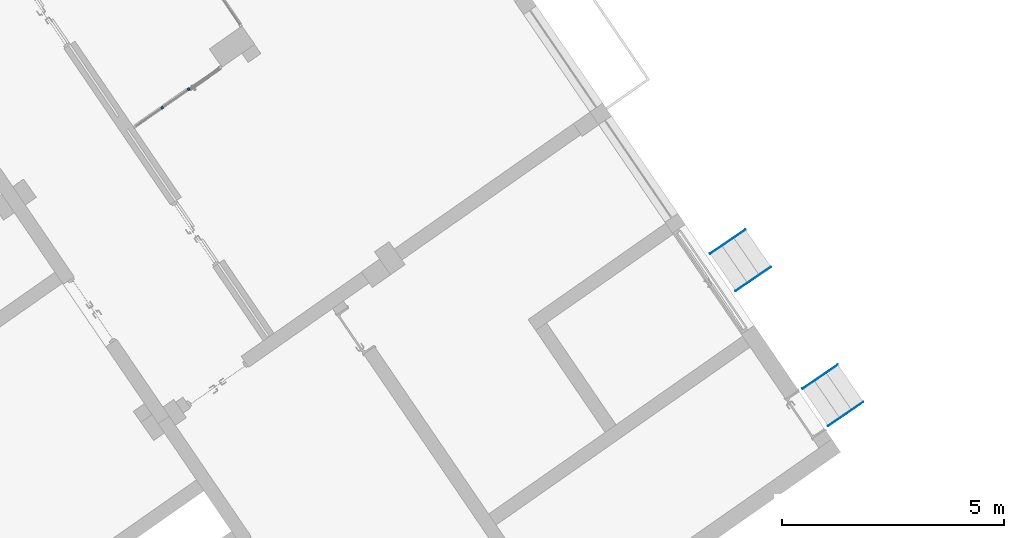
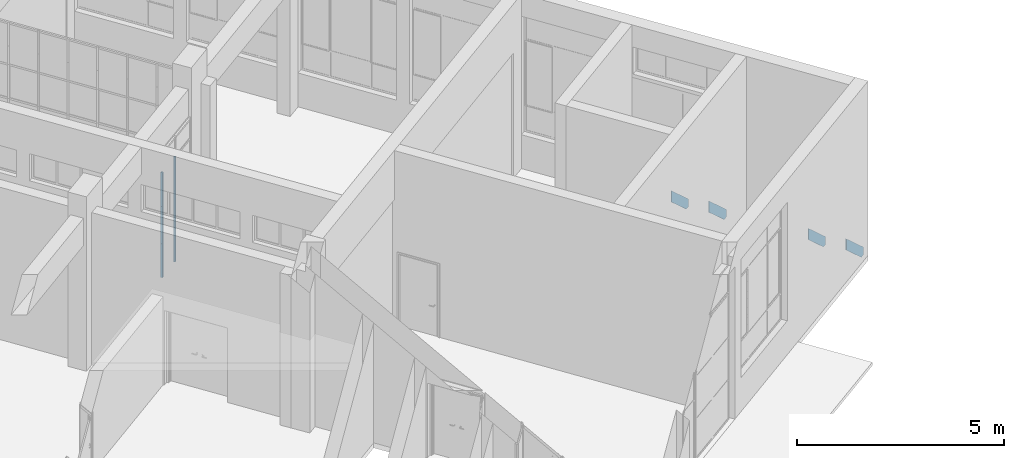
# One storey, part 5 of 157: 10 members, 3 elements without a shape of their own.
"""IFC2X3 building model written with IfcOpenShell, lengths in millimetres."""

import ifcopenshell
import ifcopenshell.guid

model = None  # the IFC model being written
_history = None  # IfcOwnerHistory: only IFC2X3 demands one
_inside = {}  # id of a spatial element -> (the spatial element, [elements in it])
_under = {}  # id of a project, library or spatial element -> (it, [spatial elements below it])
_declared = {}  # id of a project -> (the project, [libraries it declares])
_typed = {}  # id of a type object -> (the type object, [elements of that type])
_made_of = {}  # id of a material, layer set ... -> (it, [elements and type objects made of it])


def new_model(schema):
    """Start an empty IFC model of exactly this schema.

    Asked for "IFC4X3", IfcOpenShell would pick the latest addendum, in which some entities
    have other attributes; the version numbers below select the first issue.
    IFC2X3 requires an IfcOwnerHistory on every rooted entity: one is made here for all.
    """
    global model, _history
    if schema == "IFC4X3":
        model = ifcopenshell.file(schema_version=(4, 3, 0, 0))
    else:
        model = ifcopenshell.file(schema=schema)
    _inside.clear()
    _under.clear()
    _declared.clear()
    _typed.clear()
    _made_of.clear()
    _history = None
    if model.schema == "IFC2X3":
        org = make("IfcOrganization", Name="unknown")
        user = make(
            "IfcPersonAndOrganization",
            ThePerson=make("IfcPerson", FamilyName="unknown"),
            TheOrganization=org,
        )
        app = make(
            "IfcApplication",
            ApplicationDeveloper=org,
            Version="unknown",
            ApplicationFullName="unknown",
            ApplicationIdentifier="unknown",
        )
        _history = make(
            "IfcOwnerHistory",
            OwningUser=user,
            OwningApplication=app,
            ChangeAction="ADDED",
            CreationDate=0,
        )
    return model


def make(cls, **values):
    """One entity of the class cls with the attributes given. An attribute that is None is left unset."""
    return model.create_entity(
        cls, **{name: value for name, value in values.items() if value is not None}
    )


def entity(cls, *values):
    """Any entity or typed value of the class cls, its attributes in the order of the schema. None: left unset."""
    e = model.create_entity(cls)
    for i, value in enumerate(values):
        if value is not None:
            e[i] = value
    return e


def rooted(cls, **values):
    """An entity with a GlobalId (a new one), such as an element, a storey or a relation."""
    return make(cls, GlobalId=ifcopenshell.guid.new(), OwnerHistory=_history, **values)


def si_unit(unit_type, name, prefix=None):
    """IfcSIUnit, for example si_unit("LENGTHUNIT", "METRE", prefix="MILLI")."""
    return make("IfcSIUnit", UnitType=unit_type, Prefix=prefix, Name=name)


def converted_unit(unit_type, name, factor, base, dimensions=None, offset=None):
    """IfcConversionBasedUnit, such as the inch: factor (a typed value) times the base unit."""
    return make(
        "IfcConversionBasedUnit"
        if offset is None
        else "IfcConversionBasedUnitWithOffset",
        ConversionOffset=offset,
        Dimensions=None
        if dimensions is None
        else entity("IfcDimensionalExponents", *dimensions),
        UnitType=unit_type,
        Name=name,
        ConversionFactor=make(
            "IfcMeasureWithUnit", ValueComponent=factor, UnitComponent=base
        ),
    )


def derived_unit(unit_type, elements):
    """IfcDerivedUnit: a product of units, each with its exponent."""
    return make(
        "IfcDerivedUnit",
        Elements=[
            make("IfcDerivedUnitElement", Unit=unit, Exponent=power)
            for unit, power in elements
        ],
        UnitType=unit_type,
    )


def assignment(units):
    """IfcUnitAssignment: the units of a project."""
    return None if units is None else make("IfcUnitAssignment", Units=units)


def point(xyz):
    """IfcCartesianPoint."""
    return None if xyz is None else make("IfcCartesianPoint", Coordinates=xyz)


def direction(xyz):
    """IfcDirection."""
    return None if xyz is None else make("IfcDirection", DirectionRatios=xyz)


def frame(location, z_axis=None, x_axis=None):
    """IfcAxis2Placement3D, a coordinate frame: its origin and axes. An axis left out is left unset."""
    return make(
        "IfcAxis2Placement3D",
        Location=point(location),
        Axis=direction(z_axis),
        RefDirection=direction(x_axis),
    )


def frame_2d(location, x_axis=None):
    """IfcAxis2Placement2D, a coordinate frame in the plane: its origin and x axis."""
    return make(
        "IfcAxis2Placement2D", Location=point(location), RefDirection=direction(x_axis)
    )


def origin():
    """The frame at (0, 0, 0) with its axes left unset."""
    return frame((0.0, 0.0, 0.0))


def origin_2d_with_axis():
    """The frame at (0, 0) in the plane with the x axis (1, 0) written out."""
    return frame_2d((0.0, 0.0), x_axis=(1.0, 0.0))


def place(relative_to, where):
    """IfcLocalPlacement: puts the frame where relative to a parent placement (None: the world)."""
    return make(
        "IfcLocalPlacement", PlacementRelTo=relative_to, RelativePlacement=where
    )


def context(
    kind, dimensions, precision=None, world=None, true_north=None, identifier=None
):
    """IfcGeometricRepresentationContext, for example the 3D "Model" context."""
    return make(
        "IfcGeometricRepresentationContext",
        ContextIdentifier=identifier,
        ContextType=kind,
        CoordinateSpaceDimension=dimensions,
        Precision=precision,
        WorldCoordinateSystem=world,
        TrueNorth=true_north,
    )


def subcontext(parent, identifier, kind, view, scale=None):
    """IfcGeometricRepresentationSubContext, for example "Body" below "Model"."""
    return make(
        "IfcGeometricRepresentationSubContext",
        ContextIdentifier=identifier,
        ContextType=kind,
        ParentContext=parent,
        TargetScale=scale,
        TargetView=view,
    )


def project(units=None, contexts=None):
    """IfcProject with its units and contexts."""
    return rooted(
        "IfcProject",
        Name="project",
        RepresentationContexts=contexts,
        UnitsInContext=assignment(units),
    )


def spatial(cls, under=None, at=None, **own):
    """A site, building, storey or space (cls), placed at a placement, below another one or the project."""
    s = rooted(cls, ObjectPlacement=at, **own)
    if under is not None:
        _under.setdefault(under.id(), (under, []))[1].append(s)
    return s


def polyline(points):
    """IfcPolyline through the points."""
    return make("IfcPolyline", Points=[point(p) for p in points])


def profile(cls, at=None, kind="AREA", **sizes):
    """A parametric profile (cls). Its sizes go by their IFC names, for example OverallWidth=200.0."""
    return make(cls, ProfileType=kind, Position=at, **sizes)


def rectangle(**sizes):
    """IfcRectangleProfileDef."""
    return profile("IfcRectangleProfileDef", **sizes)


def outline(outer, holes=None, kind="AREA"):
    """IfcArbitraryClosedProfileDef: a profile drawn as a closed curve; with holes, ...WithVoids."""
    if holes is None:
        return make("IfcArbitraryClosedProfileDef", ProfileType=kind, OuterCurve=outer)
    return make(
        "IfcArbitraryProfileDefWithVoids",
        ProfileType=kind,
        OuterCurve=outer,
        InnerCurves=holes,
    )


def extrude(swept, where, along, depth):
    """IfcExtrudedAreaSolid: the profile swept, set in the frame where, extruded along a direction by depth."""
    return make(
        "IfcExtrudedAreaSolid",
        SweptArea=swept,
        Position=where,
        ExtrudedDirection=direction(along),
        Depth=depth,
    )


def shape(context_of_items, identifier, shape_type, items):
    """IfcShapeRepresentation: the items that make up one representation, for example the "Body"."""
    return make(
        "IfcShapeRepresentation",
        ContextOfItems=context_of_items,
        RepresentationIdentifier=identifier,
        RepresentationType=shape_type,
        Items=items,
    )


def source(mapping_origin, context_of_items, identifier, shape_type, items):
    """IfcRepresentationMap: a shape defined once, which mapped items show again and again."""
    return make(
        "IfcRepresentationMap",
        MappingOrigin=mapping_origin,
        MappedRepresentation=shape(context_of_items, identifier, shape_type, items),
    )


def transform(
    local_origin,
    x_axis=None,
    y_axis=None,
    z_axis=None,
    scale=None,
    scale2=None,
    scale3=None,
    uniform=True,
):
    """IfcCartesianTransformationOperator3D, or its non-uniform kind. x_axis, y_axis, z_axis: its Axis1, 2, 3."""
    if uniform:
        return make(
            "IfcCartesianTransformationOperator3D",
            Axis1=direction(x_axis),
            Axis2=direction(y_axis),
            LocalOrigin=point(local_origin),
            Scale=scale,
            Axis3=direction(z_axis),
        )
    return make(
        "IfcCartesianTransformationOperator3DnonUniform",
        Axis1=direction(x_axis),
        Axis2=direction(y_axis),
        LocalOrigin=point(local_origin),
        Scale=scale,
        Axis3=direction(z_axis),
        Scale2=scale2,
        Scale3=scale3,
    )


def mapped(mapping_source, mapping_target):
    """IfcMappedItem: shows the shape of a source again, moved by a transform."""
    return make(
        "IfcMappedItem", MappingSource=mapping_source, MappingTarget=mapping_target
    )


def material(Name=None, Category=None):
    """IfcMaterial."""
    return make("IfcMaterial", Name=Name, Category=Category)


def made_of(thing, what):
    """Note that an element or type object is made of a material, layer set ...; save() writes the relation."""
    if what is not None:
        _made_of.setdefault(what.id(), (what, []))[1].append(thing)
    return thing


def type_object(cls, material=None, **own):
    """A type object (cls), such as IfcWallType, which elements share."""
    return made_of(rooted(cls, **own), material)


def type_shapes(of_type, sources):
    """Give a type object the sources (RepresentationMaps) that its elements show as mapped items."""
    of_type.RepresentationMaps = sources


def element(
    cls,
    number,
    at=None,
    inside=None,
    cuts=None,
    type_object=None,
    material=None,
    context=None,
    identifier="Body",
    shape_type=None,
    held_by="IfcProductDefinitionShape",
    body=None,
    shapes=None,
    **own,
):
    """One element of the class cls, such as IfcWall. Its Tag is "e" and its number.

    at: its placement. inside: the storey or other place that contains it. cuts: it is an
    opening in that element (IfcRelVoidsElement). A single representation is given by context,
    identifier, shape_type and body (its items); several are given by shapes. held_by: the class
    of the entity that holds the representations. save() writes the other relations.
    """
    e = rooted(cls, Tag="e%d" % number, ObjectPlacement=at, **own)
    if body is not None:
        shapes = [shape(context, identifier, shape_type, body)]
    if shapes is not None:
        e.Representation = make(held_by, Representations=shapes)
    if inside is not None:
        _inside.setdefault(inside.id(), (inside, []))[1].append(e)
    if cuts is not None:
        rooted(
            "IfcRelVoidsElement", RelatingBuildingElement=cuts, RelatedOpeningElement=e
        )
    if type_object is not None:
        _typed.setdefault(type_object.id(), (type_object, []))[1].append(e)
    return made_of(e, material)


def aggregate(whole, parts):
    """IfcRelAggregates: a whole, such as a stair, and the parts it consists of."""
    return rooted("IfcRelAggregates", RelatingObject=whole, RelatedObjects=parts)


def save(model, path):
    """Write the relations noted so far, then the file.

    IfcRelAggregates (storeys below a building ...), IfcRelContainedInSpatialStructure (elements
    in a storey), IfcRelDefinesByType, IfcRelAssociatesMaterial and IfcRelDeclares: one each for
    every whole, place, type object, material and project.
    """
    for whole, parts in _under.values():
        aggregate(whole, parts)
    for where, things in _inside.values():
        rooted(
            "IfcRelContainedInSpatialStructure",
            RelatedElements=things,
            RelatingStructure=where,
        )
    for kind, things in _typed.values():
        rooted("IfcRelDefinesByType", RelatedObjects=things, RelatingType=kind)
    for what, things in _made_of.values():
        rooted("IfcRelAssociatesMaterial", RelatedObjects=things, RelatingMaterial=what)
    for by, libraries in _declared.values():
        rooted("IfcRelDeclares", RelatingContext=by, RelatedDefinitions=libraries)
    model.write(path)


model = new_model("IFC2X3")

# Units and contexts
model_context = context("Model", 3, precision=0.01, world=origin(), true_north=direction((6.123031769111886e-17, 1.0)))
body_context = subcontext(model_context, "Body", "Model", "MODEL_VIEW")
ifc_project = project(units=[si_unit("LENGTHUNIT", "METRE", prefix="MILLI"), si_unit("AREAUNIT", "SQUARE_METRE"), si_unit("VOLUMEUNIT", "CUBIC_METRE"), converted_unit("PLANEANGLEUNIT", "DEGREE", entity("IfcRatioMeasure", 0.017453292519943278), si_unit("PLANEANGLEUNIT", "RADIAN"), dimensions=[0, 0, 0, 0, 0, 0, 0]), si_unit("MASSUNIT", "GRAM", prefix="KILO"), derived_unit("MASSDENSITYUNIT", [(si_unit("MASSUNIT", "GRAM", prefix="KILO"), 1), (si_unit("LENGTHUNIT", "METRE"), -3)]), derived_unit("MOMENTOFINERTIAUNIT", [(si_unit("LENGTHUNIT", "METRE"), 4)]), si_unit("TIMEUNIT", "SECOND"), si_unit("FREQUENCYUNIT", "HERTZ"), si_unit("THERMODYNAMICTEMPERATUREUNIT", "DEGREE_CELSIUS"), derived_unit("THERMALTRANSMITTANCEUNIT", [(si_unit("MASSUNIT", "GRAM", prefix="KILO"), 1), (si_unit("THERMODYNAMICTEMPERATUREUNIT", "KELVIN"), -1), (si_unit("TIMEUNIT", "SECOND"), -3)]), derived_unit("THERMALCONDUCTANCEUNIT", [(si_unit("MASSUNIT", "GRAM", prefix="KILO"), 1), (si_unit("LENGTHUNIT", "METRE"), 1), (si_unit("THERMODYNAMICTEMPERATUREUNIT", "KELVIN"), -1), (si_unit("TIMEUNIT", "SECOND"), -3)]), derived_unit("VOLUMETRICFLOWRATEUNIT", [(si_unit("LENGTHUNIT", "METRE"), 3), (si_unit("TIMEUNIT", "SECOND"), -1)]), derived_unit("MASSFLOWRATEUNIT", [(si_unit("MASSUNIT", "GRAM", prefix="KILO"), 1), (si_unit("TIMEUNIT", "SECOND"), -1)]), derived_unit("ROTATIONALFREQUENCYUNIT", [(si_unit("TIMEUNIT", "SECOND"), -1)]), si_unit("ELECTRICCURRENTUNIT", "AMPERE"), si_unit("ELECTRICVOLTAGEUNIT", "VOLT"), si_unit("POWERUNIT", "WATT"), converted_unit("FORCEUNIT", "KIP", entity("IfcRatioMeasure", 2.088543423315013e-05), si_unit("FORCEUNIT", "NEWTON"), dimensions=[1, 1, -2, 0, 0, 0, 0]), si_unit("ILLUMINANCEUNIT", "LUX"), si_unit("LUMINOUSFLUXUNIT", "LUMEN"), si_unit("LUMINOUSINTENSITYUNIT", "CANDELA"), derived_unit("USERDEFINED", [(si_unit("MASSUNIT", "GRAM", prefix="KILO"), -1), (si_unit("LENGTHUNIT", "METRE"), -2), (si_unit("TIMEUNIT", "SECOND"), 3), (si_unit("LUMINOUSFLUXUNIT", "LUMEN"), 1)]), derived_unit("USERDEFINED", [(si_unit("MASSUNIT", "GRAM", prefix="KILO"), 1), (si_unit("LENGTHUNIT", "METRE"), 3), (si_unit("TIMEUNIT", "SECOND"), -3), (si_unit("ELECTRICCURRENTUNIT", "AMPERE"), -2)]), derived_unit("USERDEFINED", [(si_unit("LENGTHUNIT", "METRE"), 2), (si_unit("TIMEUNIT", "SECOND"), -2)]), derived_unit("SOUNDPOWERUNIT", [(si_unit("MASSUNIT", "GRAM", prefix="KILO"), 1), (si_unit("LENGTHUNIT", "METRE"), 2), (si_unit("TIMEUNIT", "SECOND"), -3)]), derived_unit("SOUNDPRESSUREUNIT", [(si_unit("MASSUNIT", "GRAM", prefix="KILO"), 1), (si_unit("LENGTHUNIT", "METRE"), -1), (si_unit("TIMEUNIT", "SECOND"), -2)]), derived_unit("LINEARVELOCITYUNIT", [(si_unit("LENGTHUNIT", "METRE"), 1), (si_unit("TIMEUNIT", "SECOND"), -1)]), si_unit("PRESSUREUNIT", "PASCAL"), derived_unit("USERDEFINED", [(si_unit("LENGTHUNIT", "METRE"), -2), (si_unit("MASSUNIT", "GRAM", prefix="KILO"), 1), (si_unit("TIMEUNIT", "SECOND"), -2)]), derived_unit("LINEARFORCEUNIT", [(si_unit("MASSUNIT", "GRAM", prefix="KILO"), 1), (si_unit("LENGTHUNIT", "METRE"), 1), (si_unit("TIMEUNIT", "SECOND"), -2), (si_unit("LENGTHUNIT", "METRE"), -1)]), derived_unit("PLANARFORCEUNIT", [(si_unit("MASSUNIT", "GRAM", prefix="KILO"), 1), (si_unit("LENGTHUNIT", "METRE"), 1), (si_unit("TIMEUNIT", "SECOND"), -2), (si_unit("LENGTHUNIT", "METRE"), -2)]), derived_unit("SPECIFICHEATCAPACITYUNIT", [(si_unit("LENGTHUNIT", "METRE"), 2), (si_unit("TIMEUNIT", "SECOND"), -2), (si_unit("THERMODYNAMICTEMPERATUREUNIT", "KELVIN"), -1)]), derived_unit("VAPORPERMEABILITYUNIT", [(si_unit("TIMEUNIT", "SECOND"), 1), (si_unit("LENGTHUNIT", "METRE"), -1)]), derived_unit("DYNAMICVISCOSITYUNIT", [(si_unit("MASSUNIT", "GRAM", prefix="KILO"), 1), (si_unit("LENGTHUNIT", "METRE"), -1), (si_unit("TIMEUNIT", "SECOND"), -1)]), derived_unit("THERMALEXPANSIONCOEFFICIENTUNIT", [(si_unit("THERMODYNAMICTEMPERATUREUNIT", "KELVIN"), -1)])], contexts=[model_context])

# Site, building, storey
site_placement = place(None, frame((0.0, 0.0, 0.0), z_axis=(0.0, 0.0, 1.0), x_axis=(0.8191520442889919, 0.5735764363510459, 0.0)))
site = spatial("IfcSite", under=ifc_project, at=site_placement, Name="Default", CompositionType="ELEMENT")
building_placement = place(site_placement, origin())
building = spatial("IfcBuilding", under=site, at=building_placement, CompositionType="ELEMENT")
storey_placement = place(building_placement, origin())
storey = spatial("IfcBuildingStorey", under=building, at=storey_placement, Name="1.EG +0.00", CompositionType="ELEMENT", Elevation=-4.331468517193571e-12)

# Curtain wall, members
curtain_wall_type = type_object("IfcCurtainWallType", Name="Curtain Wall:Curtain_Wall_CJC_Int5", PredefinedType="NOTDEFINED")
curtain_wall_placement = place(storey_placement, origin())
curtain_wall = element("IfcCurtainWall", 1, at=curtain_wall_placement, inside=storey, type_object=curtain_wall_type, Name="Curtain Wall:Curtain_Wall_CJC_Int5", ObjectType="Curtain Wall:Curtain_Wall_CJC_Int5")
ifc_material_1 = material(Name="Aluminium")
member_type_1 = type_object("IfcMemberType", Name="Rectangular Mullion:5x5", PredefinedType="MULLION", material=ifc_material_1)
shared_shape_1 = source(origin(), body_context, "Body", "SweptSolid", [
    extrude(rectangle(XDim=50.0, YDim=50.0, at=origin_2d_with_axis()), frame((0.0, 0.0, -1000.0), z_axis=(0.0, 0.0, 1.0), x_axis=(0.0, -1.0, 0.0)), (0.0, 0.0, 1.0), 1000.0000000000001),
])
type_shapes(member_type_1, [shared_shape_1])
member_1_placement = place(curtain_wall_placement, frame((-213614.25201384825, 67171.35891435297, 0.0), z_axis=(0.0, 0.0, -1.0), x_axis=(1.0, 0.0, 0.0)))
member_1 = element("IfcMember", 2, at=member_1_placement, type_object=member_type_1, material=ifc_material_1, Name="Rectangular Mullion:5x5", ObjectType="Rectangular Mullion:5x5", context=body_context, shape_type="MappedRepresentation", body=[
    mapped(shared_shape_1, transform((0.0, 0.0, 0.0), scale=1.0)),
])
member_2_placement = place(curtain_wall_placement, frame((-212887.18433611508, 67171.35891435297, 0.0), z_axis=(0.0, 0.0, -1.0), x_axis=(1.0, 0.0, 0.0)))
member_2 = element("IfcMember", 3, at=member_2_placement, type_object=member_type_1, material=ifc_material_1, Name="Rectangular Mullion:5x5", ObjectType="Rectangular Mullion:5x5", context=body_context, shape_type="MappedRepresentation", body=[
    mapped(shared_shape_1, transform((0.0, 0.0, 0.0), scale=1.0)),
])
member_type_2 = type_object("IfcMemberType", Name="Rectangular Mullion:5x5", PredefinedType="MULLION", material=ifc_material_1)
shared_shape_2 = source(origin(), body_context, "Body", "SweptSolid", [
    extrude(rectangle(XDim=50.0, YDim=50.0, at=origin_2d_with_axis()), frame((0.0, 0.0, -1100.0), z_axis=(0.0, 0.0, 1.0), x_axis=(0.0, -1.0, 0.0)), (0.0, 0.0, 1.0), 1099.9999999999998),
])
type_shapes(member_type_2, [shared_shape_2])
member_3_placement = place(curtain_wall_placement, frame((-213614.25201384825, 67171.35891435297, 1000.0), z_axis=(0.0, 0.0, -1.0), x_axis=(1.0, 0.0, 0.0)))
member_3 = element("IfcMember", 4, at=member_3_placement, type_object=member_type_2, material=ifc_material_1, Name="Rectangular Mullion:5x5", ObjectType="Rectangular Mullion:5x5", context=body_context, shape_type="MappedRepresentation", body=[
    mapped(shared_shape_2, transform((0.0, 0.0, 0.0), scale=1.0)),
])
member_4_placement = place(curtain_wall_placement, frame((-212887.18433611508, 67171.35891435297, 1000.0), z_axis=(0.0, 0.0, -1.0), x_axis=(1.0, 0.0, 0.0)))
member_4 = element("IfcMember", 5, at=member_4_placement, type_object=member_type_2, material=ifc_material_1, Name="Rectangular Mullion:5x5", ObjectType="Rectangular Mullion:5x5", context=body_context, shape_type="MappedRepresentation", body=[
    mapped(shared_shape_2, transform((0.0, 0.0, 0.0), scale=1.0)),
])
member_type_3 = type_object("IfcMemberType", Name="Rectangular Mullion:5x5", PredefinedType="MULLION", material=ifc_material_1)
shared_shape_3 = source(origin(), body_context, "Body", "SweptSolid", [
    extrude(rectangle(XDim=50.0, YDim=50.0, at=origin_2d_with_axis()), frame((0.0, 0.0, -1000.0), z_axis=(0.0, 0.0, 1.0), x_axis=(0.0, -1.0, 0.0)), (0.0, 0.0, 1.0), 1000.0000000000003),
])
type_shapes(member_type_3, [shared_shape_3])
member_5_placement = place(curtain_wall_placement, frame((-213614.25201384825, 67171.35891435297, 2100.0), z_axis=(0.0, 0.0, -1.0), x_axis=(1.0, 0.0, 0.0)))
member_5 = element("IfcMember", 6, at=member_5_placement, type_object=member_type_3, material=ifc_material_1, Name="Rectangular Mullion:5x5", ObjectType="Rectangular Mullion:5x5", context=body_context, shape_type="MappedRepresentation", body=[
    mapped(shared_shape_3, transform((0.0, 0.0, 0.0), scale=1.0)),
])
member_6_placement = place(curtain_wall_placement, frame((-212887.18433611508, 67171.35891435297, 2100.0), z_axis=(0.0, 0.0, -1.0), x_axis=(1.0, 0.0, 0.0)))
member_6 = element("IfcMember", 7, at=member_6_placement, type_object=member_type_3, material=ifc_material_1, Name="Rectangular Mullion:5x5", ObjectType="Rectangular Mullion:5x5", context=body_context, shape_type="MappedRepresentation", body=[
    mapped(shared_shape_3, transform((0.0, 0.0, 0.0), scale=1.0)),
])
aggregate(curtain_wall, [member_1, member_2, member_3, member_4, member_5, member_6])

# Stair, members
stair_1_placement = place(storey_placement, origin())
stair_1 = element("IfcStair", 8, at=stair_1_placement, inside=storey, Name="Assembled Stair:Stair", ObjectType="Assembled Stair:Commercial-Ext_Steel_Fire_Escape", ShapeType="STRAIGHT_RUN_STAIR")
ifc_material_2 = material(Name="Steel, Paint Finish, Dark Gray, Matte")
member_type_4 = type_object("IfcMemberType", Name="Stringer:Stringer-Paint-15mm_Width", PredefinedType="STRINGER")
member_7_placement = place(stair_1_placement, origin())
member_7 = element("IfcMember", 9, at=member_7_placement, type_object=member_type_4, material=ifc_material_2, Name="Assembled Stair:Stair:629207 Stringer 1", ObjectType="Stringer:Stringer-Paint-15mm_Width", context=body_context, shape_type="SweptSolid", body=[
    extrude(outline(polyline([(-407.7260272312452, -410.5428057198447), (-289.0958910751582, -410.5428057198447), (552.2739727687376, 334.4200945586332), (552.2739727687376, 668.33275844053), (-407.7260272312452, -181.6672415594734), (-407.7260272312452, -410.5428057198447)])), frame((-204895.1917782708, 52699.98153134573, -439.45719428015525), z_axis=(0.010253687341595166, 0.9999474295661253, 0.0), x_axis=(-0.9999474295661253, 0.010253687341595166, 0.0)), (0.0, 0.0, 1.0), 14.999999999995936),
])
member_8_placement = place(stair_1_placement, origin())
member_8 = element("IfcMember", 10, at=member_8_placement, type_object=member_type_4, material=ifc_material_2, Name="Assembled Stair:Stair:629207 Stringer 2", ObjectType="Stringer:Stringer-Paint-15mm_Width", context=body_context, shape_type="SweptSolid", body=[
    extrude(outline(polyline([(-407.7260272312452, -410.5428057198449), (-289.0958910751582, -410.5428057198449), (552.2739727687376, 334.4200945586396), (552.2739727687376, 668.3327584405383), (-407.7260272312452, -181.66724155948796), (-407.7260272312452, -410.5428057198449)])), frame((-204884.78428561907, 53714.92817235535, -439.457194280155), z_axis=(0.010253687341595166, 0.9999474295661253, 0.0), x_axis=(-0.9999474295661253, 0.010253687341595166, 0.0)), (0.0, 0.0, 1.0), 14.999999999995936),
])
aggregate(stair_1, [member_7, member_8])

stair_2_placement = place(storey_placement, origin())
stair_2 = element("IfcStair", 11, at=stair_2_placement, inside=storey, Name="Assembled Stair:Stair", ObjectType="Assembled Stair:Commercial-Ext_Steel_Fire_Escape", ShapeType="STRAIGHT_RUN_STAIR")
member_9_placement = place(stair_2_placement, origin())
member_9 = element("IfcMember", 12, at=member_9_placement, type_object=member_type_4, material=ifc_material_2, Name="Assembled Stair:Stair:629355 Stringer 1", ObjectType="Stringer:Stringer-Paint-15mm_Width", context=body_context, shape_type="SweptSolid", body=[
    extrude(outline(polyline([(-407.72602723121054, -410.5428057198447), (-289.0958910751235, -410.5428057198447), (552.2739727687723, 334.4200945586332), (552.2739727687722, 668.33275844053), (-407.72602723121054, -181.6672415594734), (-407.72602723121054, -410.5428057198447)])), frame((-204855.19177827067, 56380.36247862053, -439.45719428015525), z_axis=(0.010253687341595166, 0.9999474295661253, 0.0), x_axis=(-0.9999474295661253, 0.010253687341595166, 0.0)), (0.0, 0.0, 1.0), 14.999999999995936),
])
member_10_placement = place(stair_2_placement, origin())
member_10 = element("IfcMember", 13, at=member_10_placement, type_object=member_type_4, material=ifc_material_2, Name="Assembled Stair:Stair:629355 Stringer 2", ObjectType="Stringer:Stringer-Paint-15mm_Width", context=body_context, shape_type="SweptSolid", body=[
    extrude(outline(polyline([(-407.7260272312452, -410.5428057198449), (-289.0958910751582, -410.5428057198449), (552.2739727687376, 334.4200945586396), (552.2739727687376, 668.3327584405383), (-407.7260272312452, -181.66724155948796), (-407.7260272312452, -410.5428057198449)])), frame((-204844.78428561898, 57395.309119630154, -439.457194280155), z_axis=(0.010253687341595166, 0.9999474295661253, 0.0), x_axis=(-0.9999474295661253, 0.010253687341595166, 0.0)), (0.0, 0.0, 1.0), 14.999999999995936),
])
aggregate(stair_2, [member_9, member_10])

save(model, "model.ifc")
